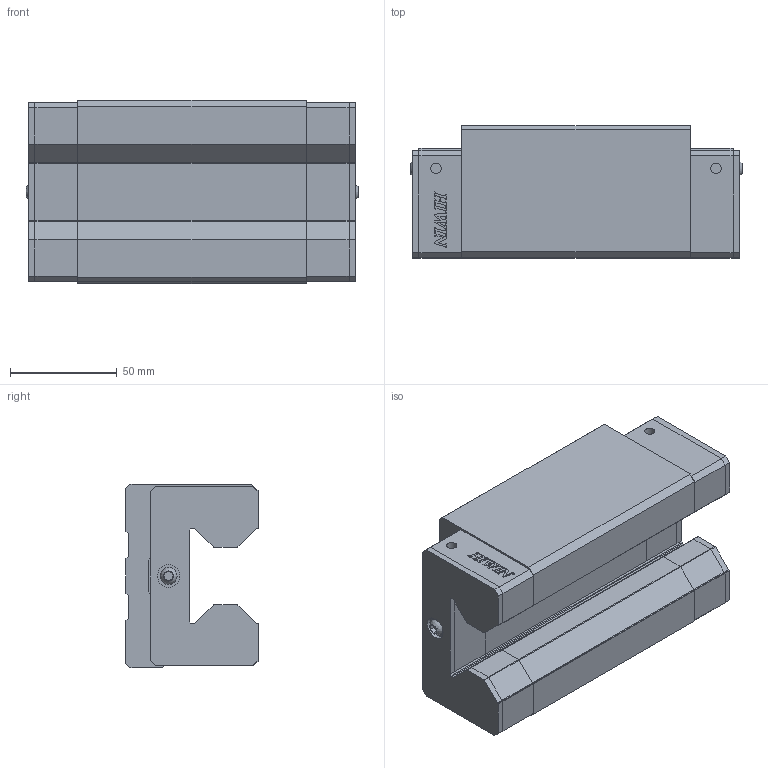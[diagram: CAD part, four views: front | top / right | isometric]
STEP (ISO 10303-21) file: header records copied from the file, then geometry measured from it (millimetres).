
FILE_DESCRIPTION(/* description */ (''),/* implementation_level */ '2;1');
FILE_NAME(/* name */ 'URH45CAZAH_GW202603049625.stp',/* time_stamp */ '2026-03-30T22:50:23+08:00',/* author */ ('User'),/* organization */ (''),/* preprocessor_version */ 'ST-DEVELOPER v20.1',/* originating_system */ 'Autodesk Inventor 2026',/* authorisation */ '');
FILE_SCHEMA (('AUTOMOTIVE_DESIGN { 1 0 10303 214 3 1 1 }'));
Products named in the file (3): URH45CAZAH_GW202603049625; URH45C_左封; 31010069
Assembly tree (3 placements, depth 2):
  URH45CAZAH_GW202603049625
    URH45C_左封
    31010069  x2
Bounding box: 155.8 x 62 x 86 mm (x, y, z)
Volume: 587936.5 mm3; surface area: 93121.7 mm2
Topology: 7 solids, 7 shells, 514 faces, 1420 edges, 944 vertices
Faces by surface type: plane 372, cylinder 134, cone 6, bspline 2
Full cylindrical faces by diameter (mm): 1.5 x2, 4.917 x4, 6 x2, 6.4 x2, 8 x2, 8.376 x6, 10.3 x2, 10.5 x2
Entity records: 16096 total; most frequent: CARTESIAN_POINT 2848, ORIENTED_EDGE 2776, DIRECTION 2666, EDGE_CURVE 1388, LINE 1122, VECTOR 1122, VERTEX_POINT 927, AXIS2_PLACEMENT_3D 772
